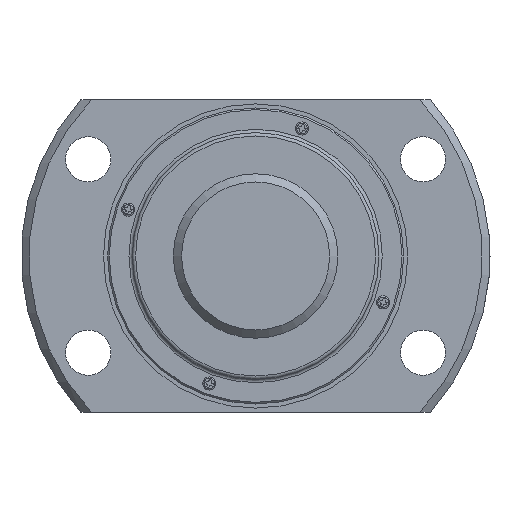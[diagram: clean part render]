
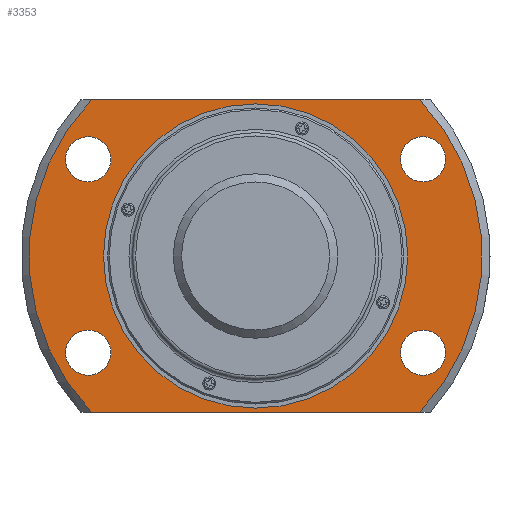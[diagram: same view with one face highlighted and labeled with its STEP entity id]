
A CAD part, left-side view. The second image highlights one B-rep face of the part: STEP entity #3353.
In plain terms, the highlighted planar face has unit normal (-1, 0, 0).
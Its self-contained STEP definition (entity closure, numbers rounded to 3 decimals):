
#36=LINE('',#5035,#364);
#37=LINE('',#5036,#365);
#364=VECTOR('',#3990,1000.);
#365=VECTOR('',#3991,1000.);
#720=PLANE('',#3601);
#884=ORIENTED_EDGE('',*,*,#1816,.T.);
#885=ORIENTED_EDGE('',*,*,#1817,.T.);
#886=ORIENTED_EDGE('',*,*,#1818,.T.);
#887=ORIENTED_EDGE('',*,*,#1819,.T.);
#888=ORIENTED_EDGE('',*,*,#1820,.T.);
#889=ORIENTED_EDGE('',*,*,#1811,.F.);
#890=ORIENTED_EDGE('',*,*,#1821,.T.);
#891=ORIENTED_EDGE('',*,*,#1814,.F.);
#892=ORIENTED_EDGE('',*,*,#1822,.T.);
#1811=EDGE_CURVE('',#2277,#2278,#2605,.T.);
#1814=EDGE_CURVE('',#2279,#2280,#2606,.T.);
#1816=EDGE_CURVE('',#2281,#2281,#2607,.T.);
#1817=EDGE_CURVE('',#2282,#2282,#2608,.T.);
#1818=EDGE_CURVE('',#2283,#2283,#2609,.T.);
#1819=EDGE_CURVE('',#2284,#2284,#2610,.T.);
#1820=EDGE_CURVE('',#2285,#2285,#2611,.T.);
#1821=EDGE_CURVE('',#2277,#2280,#36,.T.);
#1822=EDGE_CURVE('',#2279,#2278,#37,.T.);
#2277=VERTEX_POINT('',#5005);
#2278=VERTEX_POINT('',#5007);
#2279=VERTEX_POINT('',#5017);
#2280=VERTEX_POINT('',#5019);
#2281=VERTEX_POINT('',#5026);
#2282=VERTEX_POINT('',#5028);
#2283=VERTEX_POINT('',#5030);
#2284=VERTEX_POINT('',#5032);
#2285=VERTEX_POINT('',#5034);
#2605=CIRCLE('',#3598,27.55);
#2606=CIRCLE('',#3600,27.55);
#2607=CIRCLE('',#3602,18.5);
#2608=CIRCLE('',#3603,2.75);
#2609=CIRCLE('',#3604,2.75);
#2610=CIRCLE('',#3605,2.75);
#2611=CIRCLE('',#3606,2.75);
#2744=EDGE_LOOP('',(#884));
#2745=EDGE_LOOP('',(#885));
#2746=EDGE_LOOP('',(#886));
#2747=EDGE_LOOP('',(#887));
#2748=EDGE_LOOP('',(#888));
#2749=EDGE_LOOP('',(#889,#890,#891,#892));
#3024=FACE_BOUND('',#2744,.T.);
#3025=FACE_BOUND('',#2745,.T.);
#3026=FACE_BOUND('',#2746,.T.);
#3027=FACE_BOUND('',#2747,.T.);
#3028=FACE_BOUND('',#2748,.T.);
#3029=FACE_BOUND('',#2749,.T.);
#3353=ADVANCED_FACE('',(#3024,#3025,#3026,#3027,#3028,#3029),#720,.T.);
#3598=AXIS2_PLACEMENT_3D('',#5006,#3972,#3973);
#3600=AXIS2_PLACEMENT_3D('',#5018,#3976,#3977);
#3601=AXIS2_PLACEMENT_3D('',#5024,#3978,#3979);
#3602=AXIS2_PLACEMENT_3D('',#5025,#3980,#3981);
#3603=AXIS2_PLACEMENT_3D('',#5027,#3982,#3983);
#3604=AXIS2_PLACEMENT_3D('',#5029,#3984,#3985);
#3605=AXIS2_PLACEMENT_3D('',#5031,#3986,#3987);
#3606=AXIS2_PLACEMENT_3D('',#5033,#3988,#3989);
#3972=DIRECTION('',(1.,0.,0.));
#3973=DIRECTION('',(0.,0.,-1.));
#3976=DIRECTION('',(1.,0.,0.));
#3977=DIRECTION('',(0.,0.,-1.));
#3978=DIRECTION('',(-1.,0.,0.));
#3979=DIRECTION('',(0.,0.,1.));
#3980=DIRECTION('',(1.,0.,0.));
#3981=DIRECTION('',(0.,0.,-1.));
#3982=DIRECTION('',(1.,0.,0.));
#3983=DIRECTION('',(0.,0.,-1.));
#3984=DIRECTION('',(1.,0.,0.));
#3985=DIRECTION('',(0.,0.,-1.));
#3986=DIRECTION('',(1.,0.,0.));
#3987=DIRECTION('',(0.,0.,-1.));
#3988=DIRECTION('',(1.,0.,0.));
#3989=DIRECTION('',(0.,0.,-1.));
#3990=DIRECTION('',(0.,1.,0.));
#3991=DIRECTION('',(0.,-1.,0.));
#5005=CARTESIAN_POINT('',(6.,-19.95,19.));
#5006=CARTESIAN_POINT('',(6.,0.,0.));
#5007=CARTESIAN_POINT('',(6.,-19.95,-19.));
#5017=CARTESIAN_POINT('',(6.,19.95,-19.));
#5018=CARTESIAN_POINT('',(6.,0.,0.));
#5019=CARTESIAN_POINT('',(6.,19.95,19.));
#5024=CARTESIAN_POINT('',(6.,27.55,0.));
#5025=CARTESIAN_POINT('',(6.,0.,0.));
#5026=CARTESIAN_POINT('',(6.,0.,-18.5));
#5027=CARTESIAN_POINT('',(6.,-20.352,11.75));
#5028=CARTESIAN_POINT('',(6.,-20.352,9.));
#5029=CARTESIAN_POINT('',(6.,20.352,-11.75));
#5030=CARTESIAN_POINT('',(6.,20.352,-14.5));
#5031=CARTESIAN_POINT('',(6.,-20.352,-11.75));
#5032=CARTESIAN_POINT('',(6.,-20.352,-14.5));
#5033=CARTESIAN_POINT('',(6.,20.352,11.75));
#5034=CARTESIAN_POINT('',(6.,20.352,9.));
#5035=CARTESIAN_POINT('',(6.,27.55,19.));
#5036=CARTESIAN_POINT('',(6.,27.55,-19.));
